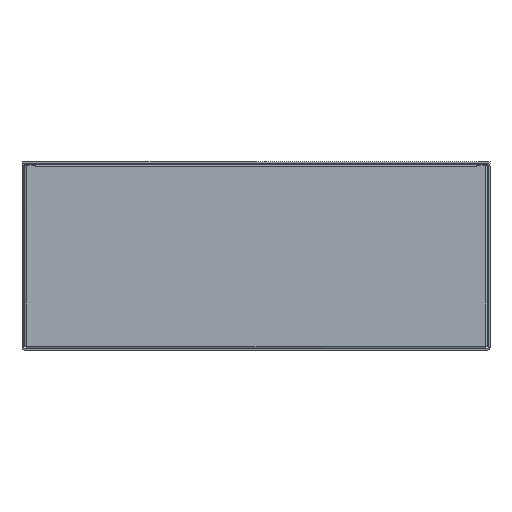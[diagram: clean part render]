
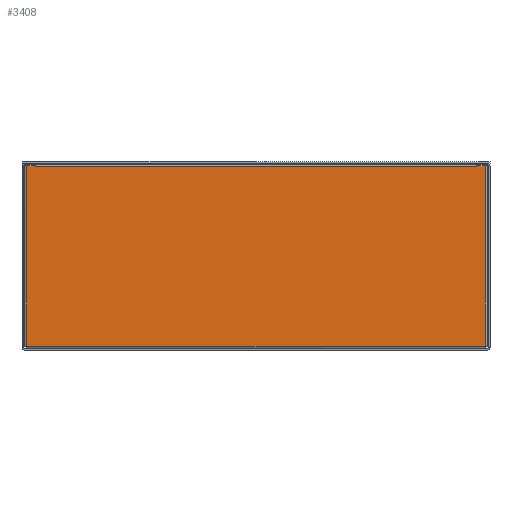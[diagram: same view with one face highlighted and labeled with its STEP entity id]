
A CAD part, front view. The second image highlights one B-rep face of the part: STEP entity #3408.
In plain terms, the highlighted planar face has unit normal (0, -1, 0).
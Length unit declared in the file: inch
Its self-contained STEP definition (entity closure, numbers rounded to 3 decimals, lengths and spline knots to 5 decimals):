
#1490 = DIRECTION ( 'NONE',  ( 0., 0., 1. ) ) ;
#1491 = VECTOR ( 'NONE', #1490, 39.37008 ) ;
#1492 = CARTESIAN_POINT ( 'NONE',  ( 9.43, 0., 7.894 ) ) ;
#1498 = LINE ( 'NONE', #1492, #1491 ) ;
#1499 = CARTESIAN_POINT ( 'NONE',  ( 9.797, 0., 7.894 ) ) ;
#1530 = CARTESIAN_POINT ( 'NONE',  ( -9.43, 0., 7.872 ) ) ;
#1531 = CARTESIAN_POINT ( 'NONE',  ( -9.43, 0., 7.894 ) ) ;
#1608 = DIRECTION ( 'NONE',  ( 0., 0., -1. ) ) ;
#1609 = VECTOR ( 'NONE', #1608, 39.37008 ) ;
#1610 = CARTESIAN_POINT ( 'NONE',  ( -9.43, 0., 7.894 ) ) ;
#1614 = LINE ( 'NONE', #1610, #1609 ) ;
#2211 = EDGE_CURVE ( 'NONE', #2222, #2227, #1614, .T. ) ;
#2222 = VERTEX_POINT ( 'NONE', #1531 ) ;
#2227 = VERTEX_POINT ( 'NONE', #1530 ) ;
#2240 = ORIENTED_EDGE ( 'NONE', *, *, #2211, .F. ) ;
#2250 = VERTEX_POINT ( 'NONE', #1499 ) ;
#2257 = EDGE_CURVE ( 'NONE', #3311, #3312, #1498, .T. ) ;
#2387 = CARTESIAN_POINT ( 'NONE',  ( 9.43, 0., 7.894 ) ) ;
#2388 = CARTESIAN_POINT ( 'NONE',  ( 9.43, 0., 7.872 ) ) ;
#2402 = DIRECTION ( 'NONE',  ( 1., 0., 0. ) ) ;
#2403 = VECTOR ( 'NONE', #2402, 39.37008 ) ;
#2404 = CARTESIAN_POINT ( 'NONE',  ( -9.81882, 0., 0.175 ) ) ;
#2405 = LINE ( 'NONE', #2404, #2403 ) ;
#2439 = CARTESIAN_POINT ( 'NONE',  ( 9.797, 0., 0.175 ) ) ;
#2442 = CARTESIAN_POINT ( 'NONE',  ( -9.797, 0., 0.175 ) ) ;
#2459 = DIRECTION ( 'NONE',  ( -1., 0., 0. ) ) ;
#2460 = VECTOR ( 'NONE', #2459, 39.37008 ) ;
#2461 = CARTESIAN_POINT ( 'NONE',  ( 9.43, 0., 7.872 ) ) ;
#2462 = LINE ( 'NONE', #2461, #2460 ) ;
#2480 = VECTOR ( 'NONE', #2486, 39.37008 ) ;
#2481 = CARTESIAN_POINT ( 'NONE',  ( -9.797, 0., 7.894 ) ) ;
#2482 = LINE ( 'NONE', #2481, #2480 ) ;
#2483 = VECTOR ( 'NONE', #2496, 39.37008 ) ;
#2484 = CARTESIAN_POINT ( 'NONE',  ( 9.797, 0., 0.15318 ) ) ;
#2485 = LINE ( 'NONE', #2484, #2483 ) ;
#2486 = DIRECTION ( 'NONE',  ( 0., 0., -1. ) ) ;
#2489 = CARTESIAN_POINT ( 'NONE',  ( -9.797, 0., 7.894 ) ) ;
#2496 = DIRECTION ( 'NONE',  ( 0., 0., 1. ) ) ;
#2502 = DIRECTION ( 'NONE',  ( 0., 0., 1. ) ) ;
#2517 = DIRECTION ( 'NONE',  ( 1., 0., 0. ) ) ;
#2518 = VECTOR ( 'NONE', #2517, 39.37008 ) ;
#2519 = CARTESIAN_POINT ( 'NONE',  ( -9.912, 0., 7.894 ) ) ;
#2520 = LINE ( 'NONE', #2519, #2518 ) ;
#2522 = PLANE ( 'NONE',  #2526 ) ;
#2524 = DIRECTION ( 'NONE',  ( 0., 1., 0. ) ) ;
#2525 = CARTESIAN_POINT ( 'NONE',  ( -9.912, 0., 7.894 ) ) ;
#2526 = AXIS2_PLACEMENT_3D ( 'NONE', #2525, #2524, #2502 ) ;
#2527 = FACE_OUTER_BOUND ( 'NONE', #3425, .T. ) ;
#2540 = DIRECTION ( 'NONE',  ( 1., 0., 0. ) ) ;
#2541 = VECTOR ( 'NONE', #2540, 39.37008 ) ;
#2548 = CARTESIAN_POINT ( 'NONE',  ( 9.912, 0., 7.894 ) ) ;
#2549 = LINE ( 'NONE', #2548, #2541 ) ;
#3311 = VERTEX_POINT ( 'NONE', #2388 ) ;
#3312 = VERTEX_POINT ( 'NONE', #2387 ) ;
#3348 = EDGE_CURVE ( 'NONE', #3359, #3360, #2405, .T. ) ;
#3349 = ORIENTED_EDGE ( 'NONE', *, *, #3373, .T. ) ;
#3350 = ORIENTED_EDGE ( 'NONE', *, *, #3351, .T. ) ;
#3351 = EDGE_CURVE ( 'NONE', #3311, #2227, #2462, .T. ) ;
#3357 = ORIENTED_EDGE ( 'NONE', *, *, #3398, .F. ) ;
#3358 = ORIENTED_EDGE ( 'NONE', *, *, #3372, .T. ) ;
#3359 = VERTEX_POINT ( 'NONE', #2442 ) ;
#3360 = VERTEX_POINT ( 'NONE', #2439 ) ;
#3364 = ORIENTED_EDGE ( 'NONE', *, *, #3348, .T. ) ;
#3366 = VERTEX_POINT ( 'NONE', #2489 ) ;
#3368 = ORIENTED_EDGE ( 'NONE', *, *, #2257, .F. ) ;
#3372 = EDGE_CURVE ( 'NONE', #3366, #3359, #2482, .T. ) ;
#3373 = EDGE_CURVE ( 'NONE', #3360, #2250, #2485, .T. ) ;
#3382 = ORIENTED_EDGE ( 'NONE', *, *, #3384, .F. ) ;
#3384 = EDGE_CURVE ( 'NONE', #3312, #2250, #2549, .T. ) ;
#3398 = EDGE_CURVE ( 'NONE', #3366, #2222, #2520, .T. ) ;
#3408 = ADVANCED_FACE ( 'NONE', ( #2527 ), #2522, .F. ) ;
#3425 = EDGE_LOOP ( 'NONE', ( #3368, #3350, #2240, #3357, #3358, #3364, #3349, #3382 ) ) ;
